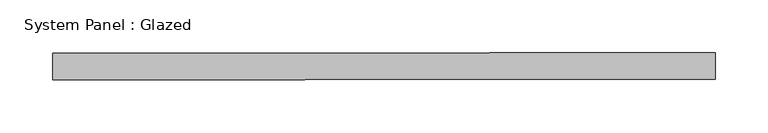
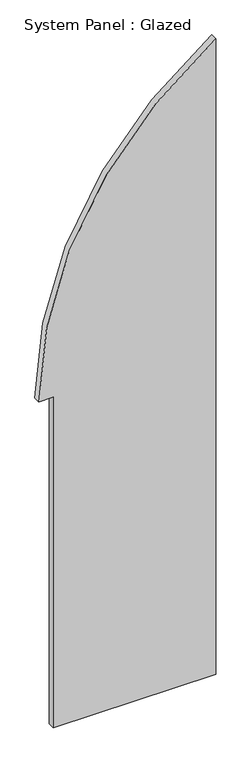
"""IFC4 building model written with IfcOpenShell, lengths in millimetres: plate geometry, System Panel : Glazed."""

from ifc_helpers import new_model, si_unit, point, frame, frame_2d, origin, place, context, project, spatial, polyline, circle_curve, trimmed, segment, composite_curve, outline, extrude, source, transform, mapped, element, save


def system_panel_glazed_459e0092(model_context):
    return source(origin(), model_context, "Body", "SweptSolid", [
        extrude(outline(composite_curve([segment(polyline([(0.0, -262.5), (0.0, 312.5), (2376.3686321, 312.5)]), True, "CONTINUOUS"), segment(trimmed(circle_curve(frame_2d((1237.5644347, 1037.5)), 1350.0), [point((2376.3686321, 312.5))], [point((1237.5644347, -312.5))], False, "CARTESIAN"), True, "CONTINUOUS"), segment(polyline([(1237.5644347, -312.5), (1237.5644347, -262.5), (0.0, -262.5)]), True, "CONTINUOUS")], self_intersect=False)), frame((0.0, -12.5, 0.0), z_axis=(0.0, 1.0, 0.0), x_axis=(0.0, 0.0, 1.0)), (0.0, 0.0, 1.0), 25.0),
    ])


if __name__ == "__main__":
    model = new_model("IFC4")
    model_context = context("Model", 3, world=origin())
    ifc_project = project(units=[si_unit("LENGTHUNIT", "METRE", prefix="MILLI")], contexts=[model_context])
    site = spatial("IfcSite", under=ifc_project)
    building = spatial("IfcBuilding", under=site)
    placement = place(None, origin())
    system_panel_glazed_shape = system_panel_glazed_459e0092(model_context)
    element("IfcPlate", 1, ObjectType="System Panel : Glazed", at=placement, inside=building, context=model_context, shape_type="MappedRepresentation", body=[
        mapped(system_panel_glazed_shape, transform((0.0, 0.0, 0.0), x_axis=(1.0, 0.0, 0.0), y_axis=(0.0, 1.0, 0.0), z_axis=(0.0, 0.0, 1.0))),
    ])
    save(model, "model.ifc")
